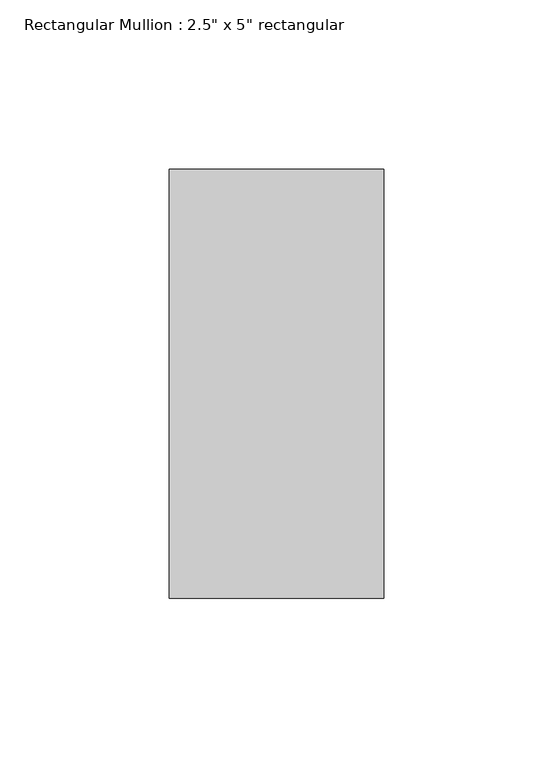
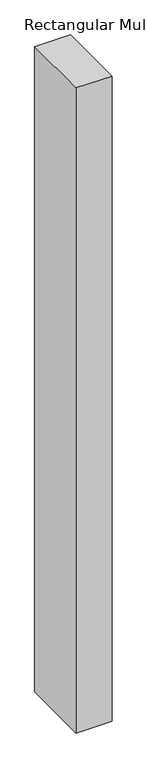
"""IFC4 building model written with IfcOpenShell, lengths in millimetres: member geometry."""

from ifc_helpers import new_model, si_unit, frame, origin, place, context, project, spatial, polyline, outline, extrude, source, transform, mapped, element, save


def member_ea26f28a(model_context):
    return source(origin(), model_context, "Body", "SweptSolid", [
        extrude(outline(polyline([(31.75, 63.5), (31.75, -63.5), (-31.75, -63.5), (-31.75, 63.5), (31.75, 63.5)])), frame((0.0, 0.0, -1206.5765619), z_axis=(0.0, 0.0, 1.0), x_axis=(1.0, 0.0, 0.0)), (0.0, 0.0, 1.0), 1206.5765619),
    ])


if __name__ == "__main__":
    model = new_model("IFC4")
    model_context = context("Model", 3, world=origin())
    ifc_project = project(units=[si_unit("LENGTHUNIT", "METRE", prefix="MILLI")], contexts=[model_context])
    site = spatial("IfcSite", under=ifc_project)
    building = spatial("IfcBuilding", under=site)
    placement = place(None, origin())
    member_shape = member_ea26f28a(model_context)
    element("IfcMember", 1, ObjectType="Rectangular Mullion : 2.5\" x 5\" rectangular", at=placement, inside=building, context=model_context, shape_type="MappedRepresentation", body=[
        mapped(member_shape, transform((0.0, 0.0, 0.0), x_axis=(1.0, 0.0, 0.0), y_axis=(0.0, 1.0, 0.0), z_axis=(0.0, 0.0, 1.0))),
    ])
    save(model, "model.ifc")
